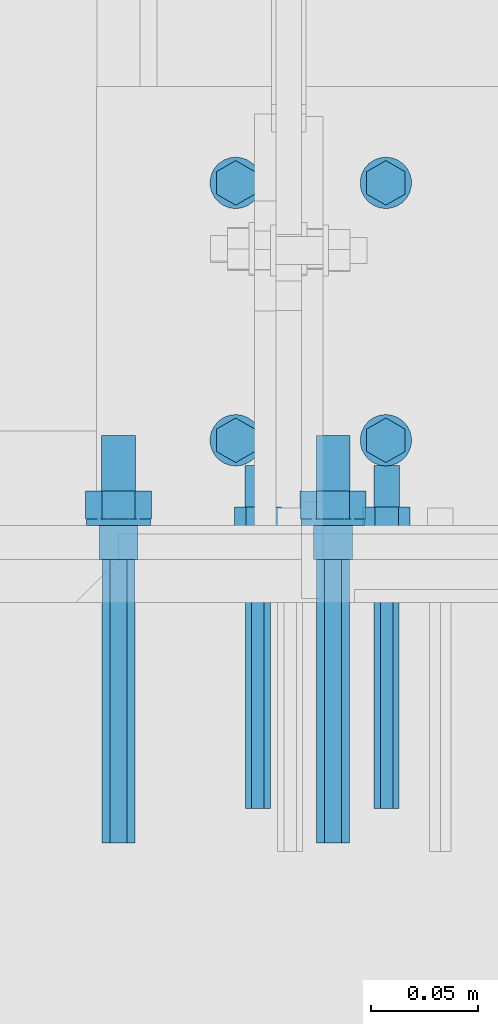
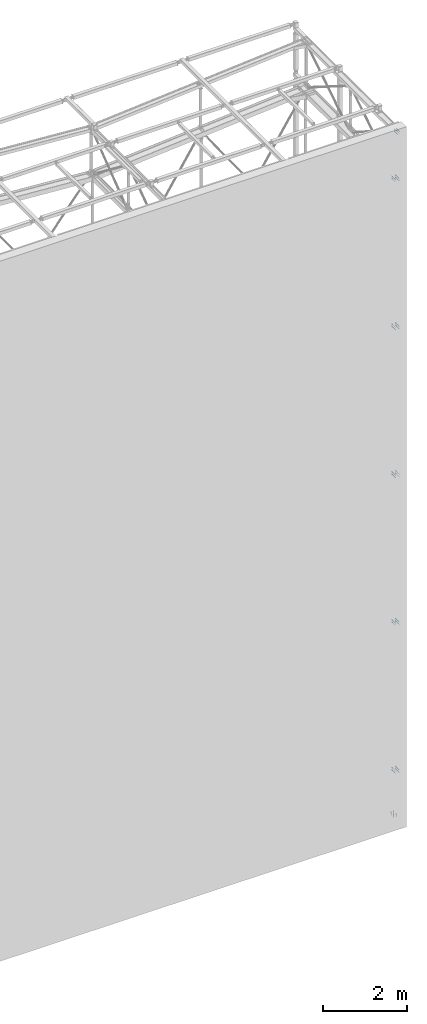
# One storey, part 223 of 271: 7 mechanical fasteners, 7 elements without a shape of their own.
"""IFC2X3 building model written with IfcOpenShell, lengths in millimetres."""

from ifc_helpers import new_model, si_unit, frame, origin_with_axes, origin_2d_with_axis, place, context, subcontext, project, spatial, polyline, circle, outline, extrude, source, transform, mapped, material, type_object, element, aggregate, save


model = new_model("IFC2X3")

# Units and contexts
model_context = context("Model", 3, precision=1e-05, world=origin_with_axes())
body_context = subcontext(model_context, "Body", "Model", "MODEL_VIEW")
ifc_project = project(units=[si_unit("LENGTHUNIT", "METRE", prefix="MILLI"), si_unit("AREAUNIT", "SQUARE_METRE"), si_unit("VOLUMEUNIT", "CUBIC_METRE"), si_unit("MASSUNIT", "GRAM", prefix="KILO"), si_unit("TIMEUNIT", "SECOND"), si_unit("PLANEANGLEUNIT", "RADIAN"), si_unit("SOLIDANGLEUNIT", "STERADIAN"), si_unit("THERMODYNAMICTEMPERATUREUNIT", "DEGREE_CELSIUS"), si_unit("LUMINOUSINTENSITYUNIT", "LUMEN")], contexts=[model_context])

# Site, building, storey
site_placement = place(None, origin_with_axes())
site = spatial("IfcSite", under=ifc_project, at=site_placement, Name="Undefined", CompositionType="ELEMENT")
building_placement = place(site_placement, origin_with_axes())
building = spatial("IfcBuilding", under=site, at=building_placement, Name="Undefined", CompositionType="ELEMENT")
storey_placement = place(building_placement, origin_with_axes())
storey = spatial("IfcBuildingStorey", under=building, at=storey_placement, Name="Undefined", CompositionType="ELEMENT", Elevation=0.0)

# Assembly, mechanical fastener
assembly_1_placement = place(storey_placement, origin_with_axes())
assembly_1 = element("IfcElementAssembly", 1, at=assembly_1_placement, inside=storey, AssemblyPlace="NOTDEFINED", PredefinedType="REINFORCEMENT_UNIT")
ifc_material = material(Name="Undefined")
mechanical_fastener_type = type_object("IfcMechanicalFastenerType", Name="Bolt assembly")
shared_shape_1 = source(origin_with_axes(), body_context, "Body", "SweptSolid", [
    extrude(circle(Radius=7.0, at=origin_2d_with_axis()), frame((0.0, 0.0, 0.0), z_axis=(0.0, 1.0, 0.0), x_axis=(1.0, 0.0, 0.0)), (0.0, 0.0, 1.0), 16.1),
    extrude(outline(polyline([(10.39230484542, 0.0), (5.19615242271, 9.00000000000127), (-5.19615242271, 9.00000000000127), (-10.39230484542, 0.0), (-5.19615242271, -9.00000000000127), (5.19615242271, -9.00000000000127), (10.39230484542, 0.0)])), frame((0.0, -7.5, 0.0), z_axis=(0.0, 1.0, 0.0), x_axis=(1.0, 0.0, 0.0)), (0.0, 0.0, 1.0), 7.5),
    extrude(circle(Radius=6.0, at=origin_2d_with_axis()), frame((0.0, 0.0, 0.0), z_axis=(0.0, 1.0, 0.0), x_axis=(1.0, 0.0, 0.0)), (0.0, 0.0, 1.0), 100.0),
    extrude(circle(Radius=12.0, at=origin_2d_with_axis()), frame((0.0, 16.0, 0.0), z_axis=(0.0, 1.0, 0.0), x_axis=(1.0, 0.0, 0.0)), (0.0, 0.0, 1.0), 2.5),
    extrude(outline(polyline([(10.96965511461, 0.0), (5.484827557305, 9.50000000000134), (-5.484827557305, 9.50000000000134), (-10.96965511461, 0.0), (-5.484827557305, -9.50000000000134), (5.484827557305, -9.50000000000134), (10.96965511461, 0.0)])), frame((0.0, 18.5, 0.0), z_axis=(0.0, 1.0, 0.0), x_axis=(1.0, 0.0, 0.0)), (0.0, 0.0, 1.0), 10.0),
])
mechanical_fastener_1_placement = place(assembly_1_placement, frame((12607.999999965, 195.0, 0.0), z_axis=(1.0, 0.0, 0.0), x_axis=(0.0, -1.0, 0.0)))
mechanical_fastener_1 = element("IfcMechanicalFastener", 2, at=mechanical_fastener_1_placement, type_object=mechanical_fastener_type, material=ifc_material, Name="Bolt assembly", NominalDiameter=12.0, NominalLength=100.0, context=body_context, shape_type="MappedRepresentation", body=[
    mapped(shared_shape_1, transform((-4.83169060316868e-13, 0.0, -35.0))),
    mapped(shared_shape_1, transform((120.0, 0.0, -35.0000000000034))),
    mapped(shared_shape_1, transform((5.11590769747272e-13, 0.0, 35.0))),
    mapped(shared_shape_1, transform((120.000000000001, 0.0, 34.9999999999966))),
])
aggregate(assembly_1, [mechanical_fastener_1])

assembly_2_placement = place(storey_placement, origin_with_axes())
assembly_2 = element("IfcElementAssembly", 3, at=assembly_2_placement, inside=storey, AssemblyPlace="NOTDEFINED", PredefinedType="RIGID_FRAME")
shared_shape_2 = source(origin_with_axes(), body_context, "Body", "SweptSolid", [
    extrude(circle(Radius=7.0, at=origin_2d_with_axis()), frame((0.0, -12.0, 0.0), z_axis=(0.0, 1.0, 0.0), x_axis=(1.0, 0.0, 0.0)), (0.0, 0.0, 1.0), 12.1),
    extrude(outline(polyline([(5.80237031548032, 0.0), (2.90118515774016, 5.02500009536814), (-2.90118515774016, 5.02500009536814), (-5.80237031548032, 0.0), (-2.90118515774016, -5.02500009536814), (2.90118515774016, -5.02500009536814), (5.80237031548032, 0.0)])), frame((0.0, -128.0, 0.0), z_axis=(0.0, 1.0, 0.0), x_axis=(1.0, 0.0, 0.0)), (0.0, 0.0, 1.0), 116.0),
    extrude(circle(Radius=6.0, at=origin_2d_with_axis()), frame((0.0, -12.0, 0.0), z_axis=(0.0, 1.0, 0.0), x_axis=(1.0, 0.0, 0.0)), (0.0, 0.0, 1.0), 44.0),
    extrude(circle(Radius=12.0, at=origin_2d_with_axis()), frame((0.0, 0.0, 0.0), z_axis=(0.0, 1.0, 0.0), x_axis=(1.0, 0.0, 0.0)), (0.0, 0.0, 1.0), 2.5),
    extrude(outline(polyline([(10.96965511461, 0.0), (5.484827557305, 9.50000000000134), (-5.484827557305, 9.50000000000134), (-10.96965511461, 0.0), (-5.484827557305, -9.50000000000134), (5.484827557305, -9.50000000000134), (10.96965511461, 0.0)])), frame((0.0, 2.50000000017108, 0.0), z_axis=(0.0, 1.0, 0.0), x_axis=(1.0, 0.0, 0.0)), (0.0, 0.0, 1.0), 10.0),
])
mechanical_fastener_2_placement = place(assembly_2_placement, frame((12713.3756870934, 31.3249842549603, 20004.3499999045), z_axis=(0.0, 0.0, -1.0), x_axis=(-1.0, 0.0, 1.38777878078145e-17)))
mechanical_fastener_2 = element("IfcMechanicalFastener", 4, at=mechanical_fastener_2_placement, type_object=mechanical_fastener_type, material=ifc_material, Name="Bolt assembly", NominalDiameter=12.0, NominalLength=44.0, context=body_context, shape_type="MappedRepresentation", body=[
    mapped(shared_shape_2, transform((70.0, 0.0, -30.0))),
    mapped(shared_shape_2, transform((70.0, 0.0, 30.0))),
    mapped(shared_shape_2, transform((130.0, 0.0, -30.0))),
    mapped(shared_shape_2, transform((130.0, 0.0, 30.0))),
])
aggregate(assembly_2, [mechanical_fastener_2])

assembly_3_placement = place(storey_placement, origin_with_axes())
assembly_3 = element("IfcElementAssembly", 5, at=assembly_3_placement, inside=storey, AssemblyPlace="NOTDEFINED", PredefinedType="RIGID_FRAME")
shared_shape_3 = source(origin_with_axes(), body_context, "Body", "SweptSolid", [
    extrude(circle(Radius=9.0, at=origin_2d_with_axis()), frame((0.0, -16.0, 0.0), z_axis=(0.0, 1.0, 0.0), x_axis=(1.0, 0.0, 0.0)), (0.0, 0.0, 1.0), 16.1),
    extrude(outline(polyline([(7.73649338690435, 0.0), (3.86824669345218, 6.69999980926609), (-3.86824669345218, 6.69999980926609), (-7.73649338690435, 0.0), (-3.86824669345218, -6.69999980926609), (3.86824669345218, -6.69999980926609), (7.73649338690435, 0.0)])), frame((0.0, -148.0, 0.0), z_axis=(0.0, 1.0, 0.0), x_axis=(1.0, 0.0, 0.0)), (0.0, 0.0, 1.0), 132.0),
    extrude(circle(Radius=8.0, at=origin_2d_with_axis()), frame((0.0, -16.0, 0.0), z_axis=(0.0, 1.0, 0.0), x_axis=(1.0, 0.0, 0.0)), (0.0, 0.0, 1.0), 58.0),
    extrude(circle(Radius=15.0, at=origin_2d_with_axis()), frame((0.0, 0.0, 0.0), z_axis=(0.0, 1.0, 0.0), x_axis=(1.0, 0.0, 0.0)), (0.0, 0.0, 1.0), 3.0),
    extrude(outline(polyline([(15.4441197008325, 0.0), (7.72205985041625, 13.3750000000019), (-7.72205985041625, 13.3750000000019), (-15.4441197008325, 0.0), (-7.72205985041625, -13.3750000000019), (7.72205985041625, -13.3750000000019), (15.4441197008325, 0.0)])), frame((0.0, 3.0, 0.0), z_axis=(0.0, 1.0, 0.0), x_axis=(1.0, 0.0, 0.0)), (0.0, 0.0, 1.0), 13.0),
])
mechanical_fastener_3_placement = place(assembly_3_placement, frame((12713.3756870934, 35.3249842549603, 1364.34999990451), z_axis=(0.0, 0.0, -1.0), x_axis=(-1.0, 0.0, 1.38777878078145e-17)))
mechanical_fastener_3 = element("IfcMechanicalFastener", 6, at=mechanical_fastener_3_placement, type_object=mechanical_fastener_type, material=ifc_material, Name="Bolt assembly", NominalDiameter=16.0, NominalLength=58.0, context=body_context, shape_type="MappedRepresentation", body=[
    mapped(shared_shape_3, transform((95.0, 0.0, -35.0))),
    mapped(shared_shape_3, transform((95.0, 0.0, 35.0))),
    mapped(shared_shape_3, transform((195.0, 0.0, -35.0))),
    mapped(shared_shape_3, transform((195.0, 0.0, 35.0))),
])
aggregate(assembly_3, [mechanical_fastener_3])

assembly_4_placement = place(storey_placement, origin_with_axes())
assembly_4 = element("IfcElementAssembly", 7, at=assembly_4_placement, inside=storey, AssemblyPlace="NOTDEFINED", PredefinedType="RIGID_FRAME")
mechanical_fastener_4_placement = place(assembly_4_placement, frame((12713.3756870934, 35.3249842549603, 5684.34999990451), z_axis=(0.0, 0.0, -1.0), x_axis=(-1.0, 0.0, 1.38777878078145e-17)))
mechanical_fastener_4 = element("IfcMechanicalFastener", 8, at=mechanical_fastener_4_placement, type_object=mechanical_fastener_type, material=ifc_material, Name="Bolt assembly", NominalDiameter=16.0, NominalLength=58.0, context=body_context, shape_type="MappedRepresentation", body=[
    mapped(shared_shape_3, transform((95.0, 0.0, -35.0))),
    mapped(shared_shape_3, transform((95.0, 0.0, 35.0))),
    mapped(shared_shape_3, transform((195.0, 0.0, -35.0))),
    mapped(shared_shape_3, transform((195.0, 0.0, 35.0))),
])
aggregate(assembly_4, [mechanical_fastener_4])

assembly_5_placement = place(storey_placement, origin_with_axes())
assembly_5 = element("IfcElementAssembly", 9, at=assembly_5_placement, inside=storey, AssemblyPlace="NOTDEFINED", PredefinedType="RIGID_FRAME")
mechanical_fastener_5_placement = place(assembly_5_placement, frame((12713.3756870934, 35.3249842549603, 10004.3499999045), z_axis=(0.0, 0.0, -1.0), x_axis=(-1.0, 0.0, 1.38777878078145e-17)))
mechanical_fastener_5 = element("IfcMechanicalFastener", 10, at=mechanical_fastener_5_placement, type_object=mechanical_fastener_type, material=ifc_material, Name="Bolt assembly", NominalDiameter=16.0, NominalLength=58.0, context=body_context, shape_type="MappedRepresentation", body=[
    mapped(shared_shape_3, transform((95.0, 0.0, -35.0))),
    mapped(shared_shape_3, transform((95.0, 0.0, 35.0))),
    mapped(shared_shape_3, transform((195.0, 0.0, -35.0))),
    mapped(shared_shape_3, transform((195.0, 0.0, 35.0))),
])
aggregate(assembly_5, [mechanical_fastener_5])

assembly_6_placement = place(storey_placement, origin_with_axes())
assembly_6 = element("IfcElementAssembly", 11, at=assembly_6_placement, inside=storey, AssemblyPlace="NOTDEFINED", PredefinedType="RIGID_FRAME")
mechanical_fastener_6_placement = place(assembly_6_placement, frame((12713.3756870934, 35.3249842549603, 14324.3499999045), z_axis=(0.0, 0.0, -1.0), x_axis=(-1.0, 0.0, 1.38777878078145e-17)))
mechanical_fastener_6 = element("IfcMechanicalFastener", 12, at=mechanical_fastener_6_placement, type_object=mechanical_fastener_type, material=ifc_material, Name="Bolt assembly", NominalDiameter=16.0, NominalLength=58.0, context=body_context, shape_type="MappedRepresentation", body=[
    mapped(shared_shape_3, transform((95.0, 0.0, -35.0))),
    mapped(shared_shape_3, transform((95.0, 0.0, 35.0))),
    mapped(shared_shape_3, transform((195.0, 0.0, -35.0))),
    mapped(shared_shape_3, transform((195.0, 0.0, 35.0))),
])
aggregate(assembly_6, [mechanical_fastener_6])

assembly_7_placement = place(storey_placement, origin_with_axes())
assembly_7 = element("IfcElementAssembly", 13, at=assembly_7_placement, inside=storey, AssemblyPlace="NOTDEFINED", PredefinedType="RIGID_FRAME")
mechanical_fastener_7_placement = place(assembly_7_placement, frame((12713.3756870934, 35.3249842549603, 18644.3499999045), z_axis=(0.0, 0.0, -1.0), x_axis=(-1.0, 0.0, 1.38777878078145e-17)))
mechanical_fastener_7 = element("IfcMechanicalFastener", 14, at=mechanical_fastener_7_placement, type_object=mechanical_fastener_type, material=ifc_material, Name="Bolt assembly", NominalDiameter=16.0, NominalLength=58.0, context=body_context, shape_type="MappedRepresentation", body=[
    mapped(shared_shape_3, transform((95.0, 0.0, -35.0))),
    mapped(shared_shape_3, transform((95.0, 0.0, 35.0))),
    mapped(shared_shape_3, transform((195.0, 0.0, -35.0))),
    mapped(shared_shape_3, transform((195.0, 0.0, 35.0))),
])
aggregate(assembly_7, [mechanical_fastener_7])

save(model, "model.ifc")
